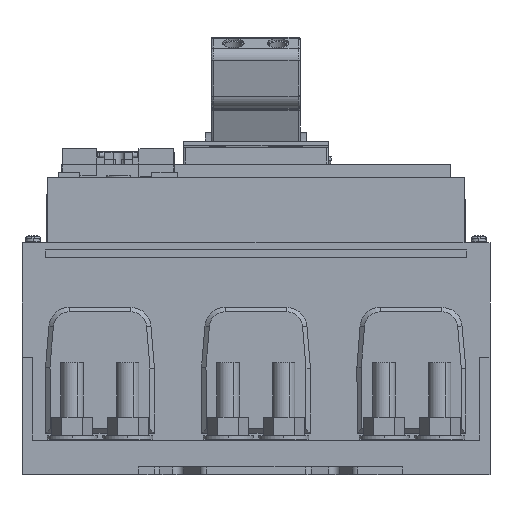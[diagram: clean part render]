
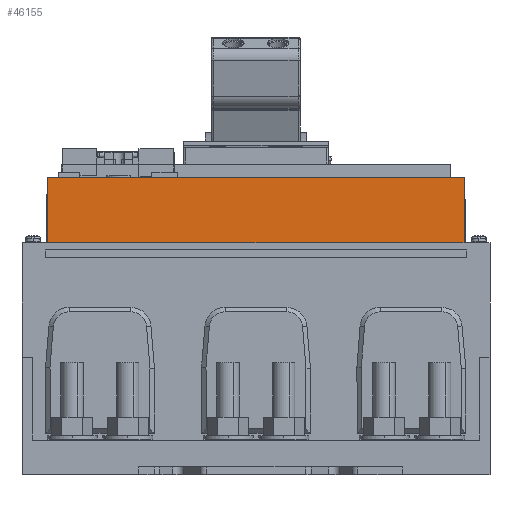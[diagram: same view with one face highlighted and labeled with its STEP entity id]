
A CAD part, front view. The second image highlights one B-rep face of the part: STEP entity #46155.
In plain terms, the highlighted planar face has unit normal (0, -1, 0.009).
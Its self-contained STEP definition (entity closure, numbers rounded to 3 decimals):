
#40002=DIRECTION('',(1.,0.,0.));
#40003=VECTOR('',#40002,186.78);
#40004=CARTESIAN_POINT('',(10.51,5.194,35.9));
#40005=LINE('',#40004,#40003);
#40123=DIRECTION('',(0.,0.009,1.));
#40124=VECTOR('',#40123,32.501);
#40125=CARTESIAN_POINT('',(10.51,4.91,3.4));
#40126=LINE('',#40125,#40124);
#40297=DIRECTION('',(1.,0.,0.));
#40298=VECTOR('',#40297,186.78);
#40299=CARTESIAN_POINT('',(10.51,4.91,3.4));
#40300=LINE('',#40299,#40298);
#41333=DIRECTION('',(0.,0.009,1.));
#41334=VECTOR('',#41333,32.501);
#41335=CARTESIAN_POINT('',(197.29,4.91,3.4));
#41336=LINE('',#41335,#41334);
#43129=CARTESIAN_POINT('',(10.51,5.194,35.9));
#43130=VERTEX_POINT('',#43129);
#43131=CARTESIAN_POINT('',(197.29,5.194,35.9));
#43132=VERTEX_POINT('',#43131);
#43145=CARTESIAN_POINT('',(10.51,4.91,3.4));
#43146=VERTEX_POINT('',#43145);
#43147=CARTESIAN_POINT('',(197.29,4.91,3.4));
#43148=VERTEX_POINT('',#43147);
#46144=CARTESIAN_POINT('',(10.51,4.91,3.4));
#46145=DIRECTION('',(0.,-1.,0.009));
#46146=DIRECTION('',(1.,0.,0.));
#46147=AXIS2_PLACEMENT_3D('',#46144,#46145,#46146);
#46148=PLANE('',#46147);
#46149=ORIENTED_EDGE('',*,*,#45105,.F.);
#46150=ORIENTED_EDGE('',*,*,#45048,.T.);
#46151=ORIENTED_EDGE('',*,*,#44997,.T.);
#46152=ORIENTED_EDGE('',*,*,#46137,.F.);
#46153=EDGE_LOOP('',(#46149,#46150,#46151,#46152));
#46154=FACE_OUTER_BOUND('',#46153,.F.);
#44997=EDGE_CURVE('',#43130,#43132,#40005,.T.);
#45048=EDGE_CURVE('',#43146,#43130,#40126,.T.);
#45105=EDGE_CURVE('',#43146,#43148,#40300,.T.);
#46137=EDGE_CURVE('',#43148,#43132,#41336,.T.);
#46155=ADVANCED_FACE('',(#46154),#46148,.T.);
